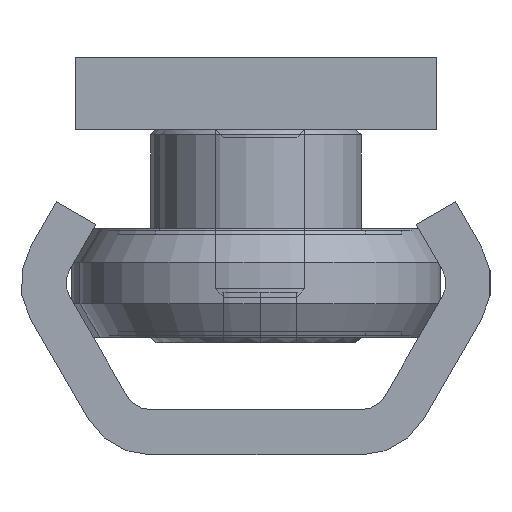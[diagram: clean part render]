
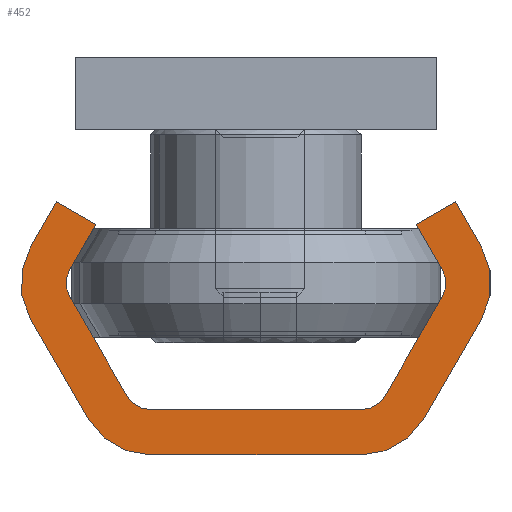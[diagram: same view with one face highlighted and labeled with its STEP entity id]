
A CAD part, left-side view. The second image highlights one B-rep face of the part: STEP entity #452.
In plain terms, the highlighted planar face has unit normal (-1, 0, 0).
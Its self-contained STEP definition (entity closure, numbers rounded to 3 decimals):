
#452 = ADVANCED_FACE( '', ( #1045 ), #1046, .F. );
#1045 = FACE_OUTER_BOUND( '', #1949, .T. );
#1046 = PLANE( '', #1950 );
#1949 = EDGE_LOOP( '', ( #3085, #3086, #3087, #3088, #3089, #3090, #3091, #3092, #3093, #3094, #3095, #3096, #3097, #3098, #3099, #3100, #3101, #3102, #3103, #3104 ) );
#1950 = AXIS2_PLACEMENT_3D( '', #3105, #3106, #3107 );
#3085 = ORIENTED_EDGE( '', *, *, #4260, .F. );
#3086 = ORIENTED_EDGE( '', *, *, #4413, .F. );
#3087 = ORIENTED_EDGE( '', *, *, #4414, .F. );
#3088 = ORIENTED_EDGE( '', *, *, #4415, .F. );
#3089 = ORIENTED_EDGE( '', *, *, #4393, .F. );
#3090 = ORIENTED_EDGE( '', *, *, #4376, .F. );
#3091 = ORIENTED_EDGE( '', *, *, #4416, .F. );
#3092 = ORIENTED_EDGE( '', *, *, #4188, .T. );
#3093 = ORIENTED_EDGE( '', *, *, #4417, .F. );
#3094 = ORIENTED_EDGE( '', *, *, #4418, .T. );
#3095 = ORIENTED_EDGE( '', *, *, #4419, .F. );
#3096 = ORIENTED_EDGE( '', *, *, #4420, .T. );
#3097 = ORIENTED_EDGE( '', *, *, #4421, .F. );
#3098 = ORIENTED_EDGE( '', *, *, #4422, .T. );
#3099 = ORIENTED_EDGE( '', *, *, #4423, .F. );
#3100 = ORIENTED_EDGE( '', *, *, #4397, .F. );
#3101 = ORIENTED_EDGE( '', *, *, #4424, .F. );
#3102 = ORIENTED_EDGE( '', *, *, #4337, .F. );
#3103 = ORIENTED_EDGE( '', *, *, #4425, .F. );
#3104 = ORIENTED_EDGE( '', *, *, #4426, .F. );
#3105 = CARTESIAN_POINT( '', ( 0., -5.825, -4. ) );
#3106 = DIRECTION( '', ( 1., 0., 0. ) );
#3107 = DIRECTION( '', ( 0., 0., -1. ) );
#4188 = EDGE_CURVE( '', #4764, #4765, #4766, .T. );
#4260 = EDGE_CURVE( '', #4895, #4896, #4897, .T. );
#4337 = EDGE_CURVE( '', #5023, #5024, #5025, .T. );
#4376 = EDGE_CURVE( '', #5096, #5097, #5098, .T. );
#4393 = EDGE_CURVE( '', #5097, #5123, #5124, .T. );
#4397 = EDGE_CURVE( '', #5129, #5130, #5131, .T. );
#4413 = EDGE_CURVE( '', #5154, #4895, #5155, .T. );
#4414 = EDGE_CURVE( '', #5156, #5154, #5157, .T. );
#4415 = EDGE_CURVE( '', #5123, #5156, #5158, .T. );
#4416 = EDGE_CURVE( '', #4764, #5096, #5159, .T. );
#4417 = EDGE_CURVE( '', #5160, #4765, #5161, .T. );
#4418 = EDGE_CURVE( '', #5160, #5162, #5163, .T. );
#4419 = EDGE_CURVE( '', #5164, #5162, #5165, .T. );
#4420 = EDGE_CURVE( '', #5164, #5166, #5167, .T. );
#4421 = EDGE_CURVE( '', #5168, #5166, #5169, .T. );
#4422 = EDGE_CURVE( '', #5168, #5170, #5171, .T. );
#4423 = EDGE_CURVE( '', #5130, #5170, #5172, .T. );
#4424 = EDGE_CURVE( '', #5024, #5129, #5173, .T. );
#4425 = EDGE_CURVE( '', #5174, #5023, #5175, .T. );
#4426 = EDGE_CURVE( '', #4896, #5174, #5176, .T. );
#4764 = VERTEX_POINT( '', #5625 );
#4765 = VERTEX_POINT( '', #5626 );
#4766 = CIRCLE( '', #5627, 1.5 );
#4895 = VERTEX_POINT( '', #5759 );
#4896 = VERTEX_POINT( '', #5760 );
#4897 = LINE( '', #5761, #5762 );
#5023 = VERTEX_POINT( '', #5915 );
#5024 = VERTEX_POINT( '', #5916 );
#5025 = CIRCLE( '', #5917, 4. );
#5096 = VERTEX_POINT( '', #6002 );
#5097 = VERTEX_POINT( '', #6003 );
#5098 = LINE( '', #6004, #6005 );
#5123 = VERTEX_POINT( '', #6034 );
#5124 = LINE( '', #6035, #6036 );
#5129 = VERTEX_POINT( '', #6043 );
#5130 = VERTEX_POINT( '', #6044 );
#5131 = LINE( '', #6045, #6046 );
#5154 = VERTEX_POINT( '', #6073 );
#5155 = CIRCLE( '', #6074, 4. );
#5156 = VERTEX_POINT( '', #6075 );
#5157 = LINE( '', #6076, #6077 );
#5158 = CIRCLE( '', #6078, 4. );
#5159 = LINE( '', #6079, #6080 );
#5160 = VERTEX_POINT( '', #6081 );
#5161 = LINE( '', #6082, #6083 );
#5162 = VERTEX_POINT( '', #6084 );
#5163 = CIRCLE( '', #6085, 1.5 );
#5164 = VERTEX_POINT( '', #6086 );
#5165 = LINE( '', #6087, #6088 );
#5166 = VERTEX_POINT( '', #6089 );
#5167 = CIRCLE( '', #6090, 1.5 );
#5168 = VERTEX_POINT( '', #6091 );
#5169 = LINE( '', #6092, #6093 );
#5170 = VERTEX_POINT( '', #6094 );
#5171 = CIRCLE( '', #6095, 1.5 );
#5172 = LINE( '', #6096, #6097 );
#5173 = LINE( '', #6098, #6099 );
#5174 = VERTEX_POINT( '', #6100 );
#5175 = LINE( '', #6101, #6102 );
#5176 = CIRCLE( '', #6103, 4. );
#5625 = CARTESIAN_POINT( '', ( 0., 10.299, -10.25 ) );
#5626 = CARTESIAN_POINT( '', ( 0., 10.299, -8.75 ) );
#5627 = AXIS2_PLACEMENT_3D( '', #6586, #6587, #6588 );
#5759 = CARTESIAN_POINT( '', ( 0., 5.825, 0. ) );
#5760 = CARTESIAN_POINT( '', ( 0., -5.825, 0. ) );
#5761 = CARTESIAN_POINT( '', ( 0., 5.825, 0. ) );
#5762 = VECTOR( '', #6766, 1000. );
#5915 = CARTESIAN_POINT( '', ( 0., -12.464, -7.5 ) );
#5916 = CARTESIAN_POINT( '', ( 0., -12.464, -11.5 ) );
#5917 = AXIS2_PLACEMENT_3D( '', #6875, #6876, #6877 );
#6002 = CARTESIAN_POINT( '', ( 0., 8.856, -12.75 ) );
#6003 = CARTESIAN_POINT( '', ( 0., 11.021, -14. ) );
#6004 = CARTESIAN_POINT( '', ( 0., 8.856, -12.75 ) );
#6005 = VECTOR( '', #6949, 1000. );
#6034 = CARTESIAN_POINT( '', ( 0., 12.464, -11.5 ) );
#6035 = CARTESIAN_POINT( '', ( 0., 11.021, -14. ) );
#6036 = VECTOR( '', #6972, 1000. );
#6043 = CARTESIAN_POINT( '', ( 0., -11.021, -14. ) );
#6044 = CARTESIAN_POINT( '', ( 0., -8.856, -12.75 ) );
#6045 = CARTESIAN_POINT( '', ( 0., -11.021, -14. ) );
#6046 = VECTOR( '', #6975, 1000. );
#6073 = CARTESIAN_POINT( '', ( 0., 9.289, -2. ) );
#6074 = AXIS2_PLACEMENT_3D( '', #6995, #6996, #6997 );
#6075 = CARTESIAN_POINT( '', ( 0., 12.464, -7.5 ) );
#6076 = CARTESIAN_POINT( '', ( 0., 12.464, -7.5 ) );
#6077 = VECTOR( '', #6998, 1000. );
#6078 = AXIS2_PLACEMENT_3D( '', #6999, #7000, #7001 );
#6079 = CARTESIAN_POINT( '', ( 0., 10.299, -10.25 ) );
#6080 = VECTOR( '', #7002, 1000. );
#6081 = CARTESIAN_POINT( '', ( 0., 7.124, -3.25 ) );
#6082 = CARTESIAN_POINT( '', ( 0., 7.124, -3.25 ) );
#6083 = VECTOR( '', #7003, 1000. );
#6084 = CARTESIAN_POINT( '', ( 0., 5.825, -2.5 ) );
#6085 = AXIS2_PLACEMENT_3D( '', #7004, #7005, #7006 );
#6086 = CARTESIAN_POINT( '', ( 0., -5.825, -2.5 ) );
#6087 = CARTESIAN_POINT( '', ( 0., -5.825, -2.5 ) );
#6088 = VECTOR( '', #7007, 1000. );
#6089 = CARTESIAN_POINT( '', ( 0., -7.124, -3.25 ) );
#6090 = AXIS2_PLACEMENT_3D( '', #7008, #7009, #7010 );
#6091 = CARTESIAN_POINT( '', ( 0., -10.299, -8.75 ) );
#6092 = CARTESIAN_POINT( '', ( 0., -10.299, -8.75 ) );
#6093 = VECTOR( '', #7011, 1000. );
#6094 = CARTESIAN_POINT( '', ( 0., -10.299, -10.25 ) );
#6095 = AXIS2_PLACEMENT_3D( '', #7012, #7013, #7014 );
#6096 = CARTESIAN_POINT( '', ( 0., -8.856, -12.75 ) );
#6097 = VECTOR( '', #7015, 1000. );
#6098 = CARTESIAN_POINT( '', ( 0., -12.464, -11.5 ) );
#6099 = VECTOR( '', #7016, 1000. );
#6100 = CARTESIAN_POINT( '', ( 0., -9.289, -2. ) );
#6101 = CARTESIAN_POINT( '', ( 0., -9.289, -2. ) );
#6102 = VECTOR( '', #7017, 1000. );
#6103 = AXIS2_PLACEMENT_3D( '', #7018, #7019, #7020 );
#6586 = CARTESIAN_POINT( '', ( 0., 9., -9.5 ) );
#6587 = DIRECTION( '', ( 1., 0., 0. ) );
#6588 = DIRECTION( '', ( 0., 0., -1. ) );
#6766 = DIRECTION( '', ( 0., -1., 0. ) );
#6875 = CARTESIAN_POINT( '', ( 0., -9., -9.5 ) );
#6876 = DIRECTION( '', ( 1., 0., 0. ) );
#6877 = DIRECTION( '', ( 0., 0., -1. ) );
#6949 = DIRECTION( '', ( 0., 0.866, -0.5 ) );
#6972 = DIRECTION( '', ( 0., 0.5, 0.866 ) );
#6975 = DIRECTION( '', ( 0., 0.866, 0.5 ) );
#6995 = CARTESIAN_POINT( '', ( 0., 5.825, -4. ) );
#6996 = DIRECTION( '', ( 1., 0., 0. ) );
#6997 = DIRECTION( '', ( 0., 0., -1. ) );
#6998 = DIRECTION( '', ( 0., -0.5, 0.866 ) );
#6999 = CARTESIAN_POINT( '', ( 0., 9., -9.5 ) );
#7000 = DIRECTION( '', ( 1., 0., 0. ) );
#7001 = DIRECTION( '', ( 0., 0., -1. ) );
#7002 = DIRECTION( '', ( 0., -0.5, -0.866 ) );
#7003 = DIRECTION( '', ( 0., 0.5, -0.866 ) );
#7004 = CARTESIAN_POINT( '', ( 0., 5.825, -4. ) );
#7005 = DIRECTION( '', ( 1., 0., 0. ) );
#7006 = DIRECTION( '', ( 0., 0., -1. ) );
#7007 = DIRECTION( '', ( 0., 1., 0. ) );
#7008 = CARTESIAN_POINT( '', ( 0., -5.825, -4. ) );
#7009 = DIRECTION( '', ( 1., 0., 0. ) );
#7010 = DIRECTION( '', ( 0., 0., -1. ) );
#7011 = DIRECTION( '', ( 0., 0.5, 0.866 ) );
#7012 = CARTESIAN_POINT( '', ( 0., -9., -9.5 ) );
#7013 = DIRECTION( '', ( 1., 0., 0. ) );
#7014 = DIRECTION( '', ( 0., 0., -1. ) );
#7015 = DIRECTION( '', ( 0., -0.5, 0.866 ) );
#7016 = DIRECTION( '', ( 0., 0.5, -0.866 ) );
#7017 = DIRECTION( '', ( 0., -0.5, -0.866 ) );
#7018 = CARTESIAN_POINT( '', ( 0., -5.825, -4. ) );
#7019 = DIRECTION( '', ( 1., 0., 0. ) );
#7020 = DIRECTION( '', ( 0., 0., -1. ) );
